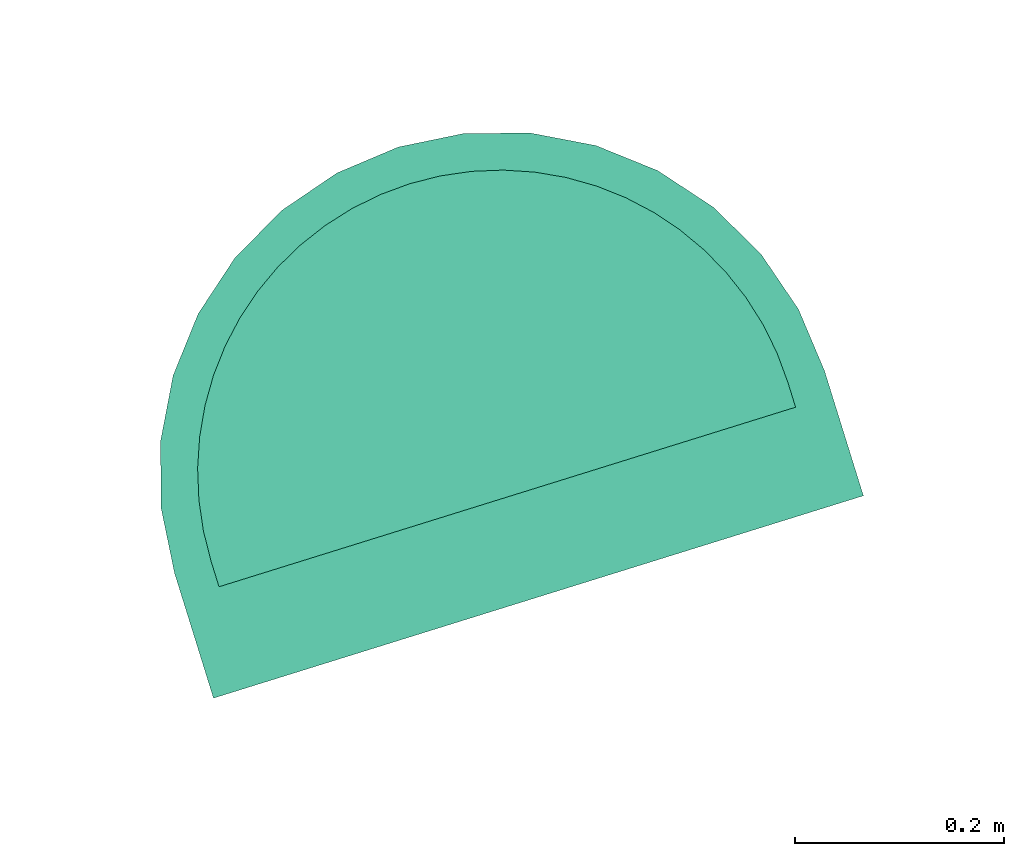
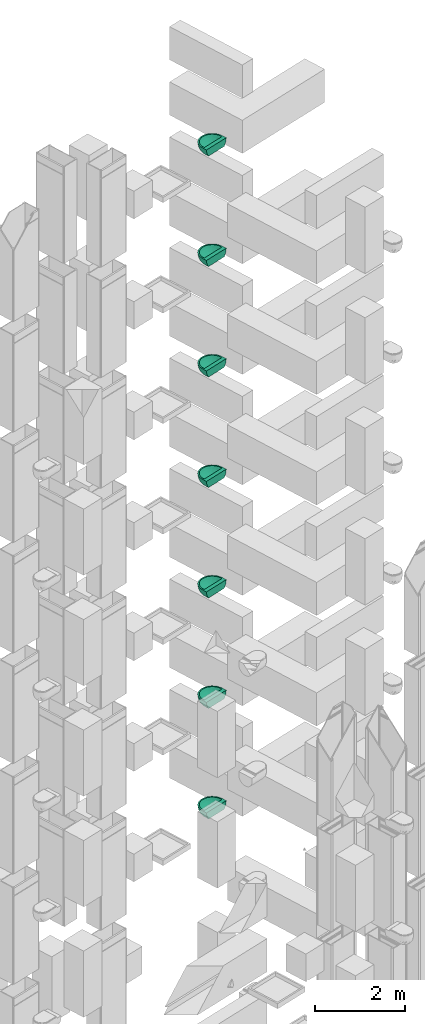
# Not in any storey, part 18 of 20: 7 sanitary terminals.
"""IFC4 model written with IfcOpenShell, lengths in metres."""

import ifcopenshell
import ifcopenshell.guid

model = None  # the IFC model being written
_history = None  # IfcOwnerHistory: only IFC2X3 demands one
_inside = {}  # id of a spatial element -> (the spatial element, [elements in it])
_under = {}  # id of a project, library or spatial element -> (it, [spatial elements below it])
_declared = {}  # id of a project -> (the project, [libraries it declares])
_typed = {}  # id of a type object -> (the type object, [elements of that type])
_made_of = {}  # id of a material, layer set ... -> (it, [elements and type objects made of it])


def new_model(schema):
    """Start an empty IFC model of exactly this schema.

    Asked for "IFC4X3", IfcOpenShell would pick the latest addendum, in which some entities
    have other attributes; the version numbers below select the first issue.
    IFC2X3 requires an IfcOwnerHistory on every rooted entity: one is made here for all.
    """
    global model, _history
    if schema == "IFC4X3":
        model = ifcopenshell.file(schema_version=(4, 3, 0, 0))
    else:
        model = ifcopenshell.file(schema=schema)
    _inside.clear()
    _under.clear()
    _declared.clear()
    _typed.clear()
    _made_of.clear()
    _history = None
    if model.schema == "IFC2X3":
        org = make("IfcOrganization", Name="unknown")
        user = make(
            "IfcPersonAndOrganization",
            ThePerson=make("IfcPerson", FamilyName="unknown"),
            TheOrganization=org,
        )
        app = make(
            "IfcApplication",
            ApplicationDeveloper=org,
            Version="unknown",
            ApplicationFullName="unknown",
            ApplicationIdentifier="unknown",
        )
        _history = make(
            "IfcOwnerHistory",
            OwningUser=user,
            OwningApplication=app,
            ChangeAction="ADDED",
            CreationDate=0,
        )
    return model


def make(cls, **values):
    """One entity of the class cls with the attributes given. An attribute that is None is left unset."""
    return model.create_entity(
        cls, **{name: value for name, value in values.items() if value is not None}
    )


def entity(cls, *values):
    """Any entity or typed value of the class cls, its attributes in the order of the schema. None: left unset."""
    e = model.create_entity(cls)
    for i, value in enumerate(values):
        if value is not None:
            e[i] = value
    return e


def rooted(cls, **values):
    """An entity with a GlobalId (a new one), such as an element, a storey or a relation."""
    return make(cls, GlobalId=ifcopenshell.guid.new(), OwnerHistory=_history, **values)


def si_unit(unit_type, name, prefix=None):
    """IfcSIUnit, for example si_unit("LENGTHUNIT", "METRE", prefix="MILLI")."""
    return make("IfcSIUnit", UnitType=unit_type, Prefix=prefix, Name=name)


def converted_unit(unit_type, name, factor, base, dimensions=None, offset=None):
    """IfcConversionBasedUnit, such as the inch: factor (a typed value) times the base unit."""
    return make(
        "IfcConversionBasedUnit"
        if offset is None
        else "IfcConversionBasedUnitWithOffset",
        ConversionOffset=offset,
        Dimensions=None
        if dimensions is None
        else entity("IfcDimensionalExponents", *dimensions),
        UnitType=unit_type,
        Name=name,
        ConversionFactor=make(
            "IfcMeasureWithUnit", ValueComponent=factor, UnitComponent=base
        ),
    )


def assignment(units):
    """IfcUnitAssignment: the units of a project."""
    return None if units is None else make("IfcUnitAssignment", Units=units)


def point(xyz):
    """IfcCartesianPoint."""
    return None if xyz is None else make("IfcCartesianPoint", Coordinates=xyz)


def direction(xyz):
    """IfcDirection."""
    return None if xyz is None else make("IfcDirection", DirectionRatios=xyz)


def frame(location, z_axis=None, x_axis=None):
    """IfcAxis2Placement3D, a coordinate frame: its origin and axes. An axis left out is left unset."""
    return make(
        "IfcAxis2Placement3D",
        Location=point(location),
        Axis=direction(z_axis),
        RefDirection=direction(x_axis),
    )


def origin():
    """The frame at (0, 0, 0) with its axes left unset."""
    return frame((0.0, 0.0, 0.0))


def place(relative_to, where):
    """IfcLocalPlacement: puts the frame where relative to a parent placement (None: the world)."""
    return make(
        "IfcLocalPlacement", PlacementRelTo=relative_to, RelativePlacement=where
    )


def context(
    kind, dimensions, precision=None, world=None, true_north=None, identifier=None
):
    """IfcGeometricRepresentationContext, for example the 3D "Model" context."""
    return make(
        "IfcGeometricRepresentationContext",
        ContextIdentifier=identifier,
        ContextType=kind,
        CoordinateSpaceDimension=dimensions,
        Precision=precision,
        WorldCoordinateSystem=world,
        TrueNorth=true_north,
    )


def subcontext(parent, identifier, kind, view, scale=None):
    """IfcGeometricRepresentationSubContext, for example "Body" below "Model"."""
    return make(
        "IfcGeometricRepresentationSubContext",
        ContextIdentifier=identifier,
        ContextType=kind,
        ParentContext=parent,
        TargetScale=scale,
        TargetView=view,
    )


def project(units=None, contexts=None):
    """IfcProject with its units and contexts."""
    return rooted(
        "IfcProject",
        Name="project",
        RepresentationContexts=contexts,
        UnitsInContext=assignment(units),
    )


def point_list(points):
    """IfcCartesianPointList2D or 3D."""
    cls = (
        "IfcCartesianPointList2D" if len(points[0]) == 2 else "IfcCartesianPointList3D"
    )
    return make(cls, CoordList=points)


def polygons(points, faces, closed=None, point_numbers=None):
    """IfcPolygonalFaceSet: a face is its outer loop, then its inner loops; points numbered from 1."""
    made = []
    for loops in faces:
        if len(loops) == 1:
            made.append(make("IfcIndexedPolygonalFace", CoordIndex=loops[0]))
        else:
            made.append(
                make(
                    "IfcIndexedPolygonalFaceWithVoids",
                    CoordIndex=loops[0],
                    InnerCoordIndices=loops[1:],
                )
            )
    return make(
        "IfcPolygonalFaceSet",
        Coordinates=point_list(points),
        Closed=closed,
        Faces=made,
        PnIndex=point_numbers,
    )


def shape(context_of_items, identifier, shape_type, items):
    """IfcShapeRepresentation: the items that make up one representation, for example the "Body"."""
    return make(
        "IfcShapeRepresentation",
        ContextOfItems=context_of_items,
        RepresentationIdentifier=identifier,
        RepresentationType=shape_type,
        Items=items,
    )


def source(mapping_origin, context_of_items, identifier, shape_type, items):
    """IfcRepresentationMap: a shape defined once, which mapped items show again and again."""
    return make(
        "IfcRepresentationMap",
        MappingOrigin=mapping_origin,
        MappedRepresentation=shape(context_of_items, identifier, shape_type, items),
    )


def transform(
    local_origin,
    x_axis=None,
    y_axis=None,
    z_axis=None,
    scale=None,
    scale2=None,
    scale3=None,
    uniform=True,
):
    """IfcCartesianTransformationOperator3D, or its non-uniform kind. x_axis, y_axis, z_axis: its Axis1, 2, 3."""
    if uniform:
        return make(
            "IfcCartesianTransformationOperator3D",
            Axis1=direction(x_axis),
            Axis2=direction(y_axis),
            LocalOrigin=point(local_origin),
            Scale=scale,
            Axis3=direction(z_axis),
        )
    return make(
        "IfcCartesianTransformationOperator3DnonUniform",
        Axis1=direction(x_axis),
        Axis2=direction(y_axis),
        LocalOrigin=point(local_origin),
        Scale=scale,
        Axis3=direction(z_axis),
        Scale2=scale2,
        Scale3=scale3,
    )


def mapped(mapping_source, mapping_target):
    """IfcMappedItem: shows the shape of a source again, moved by a transform."""
    return make(
        "IfcMappedItem", MappingSource=mapping_source, MappingTarget=mapping_target
    )


def material(Name=None, Category=None):
    """IfcMaterial."""
    return make("IfcMaterial", Name=Name, Category=Category)


def made_of(thing, what):
    """Note that an element or type object is made of a material, layer set ...; save() writes the relation."""
    if what is not None:
        _made_of.setdefault(what.id(), (what, []))[1].append(thing)
    return thing


def type_object(cls, material=None, **own):
    """A type object (cls), such as IfcWallType, which elements share."""
    return made_of(rooted(cls, **own), material)


def type_shapes(of_type, sources):
    """Give a type object the sources (RepresentationMaps) that its elements show as mapped items."""
    of_type.RepresentationMaps = sources


def element(
    cls,
    number,
    at=None,
    inside=None,
    cuts=None,
    type_object=None,
    material=None,
    context=None,
    identifier="Body",
    shape_type=None,
    held_by="IfcProductDefinitionShape",
    body=None,
    shapes=None,
    **own,
):
    """One element of the class cls, such as IfcWall. Its Tag is "e" and its number.

    at: its placement. inside: the storey or other place that contains it. cuts: it is an
    opening in that element (IfcRelVoidsElement). A single representation is given by context,
    identifier, shape_type and body (its items); several are given by shapes. held_by: the class
    of the entity that holds the representations. save() writes the other relations.
    """
    e = rooted(cls, Tag="e%d" % number, ObjectPlacement=at, **own)
    if body is not None:
        shapes = [shape(context, identifier, shape_type, body)]
    if shapes is not None:
        e.Representation = make(held_by, Representations=shapes)
    if inside is not None:
        _inside.setdefault(inside.id(), (inside, []))[1].append(e)
    if cuts is not None:
        rooted(
            "IfcRelVoidsElement", RelatingBuildingElement=cuts, RelatedOpeningElement=e
        )
    if type_object is not None:
        _typed.setdefault(type_object.id(), (type_object, []))[1].append(e)
    return made_of(e, material)


def aggregate(whole, parts):
    """IfcRelAggregates: a whole, such as a stair, and the parts it consists of."""
    return rooted("IfcRelAggregates", RelatingObject=whole, RelatedObjects=parts)


def save(model, path):
    """Write the relations noted so far, then the file.

    IfcRelAggregates (storeys below a building ...), IfcRelContainedInSpatialStructure (elements
    in a storey), IfcRelDefinesByType, IfcRelAssociatesMaterial and IfcRelDeclares: one each for
    every whole, place, type object, material and project.
    """
    for whole, parts in _under.values():
        aggregate(whole, parts)
    for where, things in _inside.values():
        rooted(
            "IfcRelContainedInSpatialStructure",
            RelatedElements=things,
            RelatingStructure=where,
        )
    for kind, things in _typed.values():
        rooted("IfcRelDefinesByType", RelatedObjects=things, RelatingType=kind)
    for what, things in _made_of.values():
        rooted("IfcRelAssociatesMaterial", RelatedObjects=things, RelatingMaterial=what)
    for by, libraries in _declared.values():
        rooted("IfcRelDeclares", RelatingContext=by, RelatedDefinitions=libraries)
    model.write(path)


model = new_model("IFC4")

# Units and contexts
model_context = context("Model", 3, precision=1e-05, world=origin(), true_north=direction((6.12323399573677e-17, 1.0)))
body_context = subcontext(model_context, "Body", "Model", "MODEL_VIEW")
ifc_project = project(units=[si_unit("LENGTHUNIT", "METRE"), si_unit("AREAUNIT", "SQUARE_METRE"), si_unit("VOLUMEUNIT", "CUBIC_METRE"), converted_unit("PLANEANGLEUNIT", "DEGREE", entity("IfcPlaneAngleMeasure", 0.0174532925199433), si_unit("PLANEANGLEUNIT", "RADIAN"), dimensions=[0, 0, 0, 0, 0, 0, 0])], contexts=[model_context])

# Sanitary terminals
ifc_material = material(Name="<Unnamed>")
sanitary_terminal_type = type_object("IfcSanitaryTerminalType", Name="NLRS_74_PF_WB_wastafel_gen:wastafel", PredefinedType="SINK", material=ifc_material)
shared_shape = source(origin(), body_context, "Body", "Tessellation", [
    polygons([(0.346918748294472, 0.250000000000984, -6.7), (0.346918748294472, 0.124999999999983, -6.7), (0.342460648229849, 0.124999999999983, -6.75364597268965), (0.32922351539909, 0.124999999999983, -6.80577703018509), (0.307569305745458, 0.124999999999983, -6.85501212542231), (0.278092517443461, 0.124999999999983, -6.9), (0.278092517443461, 0.250000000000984, -6.9), (0.307575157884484, 0.250000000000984, -6.85500134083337), (0.329230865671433, 0.250000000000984, -6.8057556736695), (0.34246627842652, 0.250000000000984, -6.75361232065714), (-0.303081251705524, 0.250000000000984, -6.7), (-0.303081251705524, 0.124999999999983, -6.7), (0.021918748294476, 0.124999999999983, -6.7), (0.021918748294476, 0.225000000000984, -6.7), (-0.266395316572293, 0.225000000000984, -6.7), (-0.266395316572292, 0.250000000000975, -6.7), (-0.264816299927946, 0.280133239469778, -6.7), (-0.260095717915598, 0.309940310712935, -6.7), (-0.252285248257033, 0.339090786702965, -6.7), (-0.241470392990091, 0.367265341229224, -6.7), (-0.227769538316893, 0.394155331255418, -6.7), (-0.21133265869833, 0.419466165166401, -6.7), (-0.192339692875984, 0.442920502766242, -6.7), (-0.170998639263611, 0.464261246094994, -6.7), (-0.147543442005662, 0.483254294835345, -6.7), (-0.122231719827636, 0.499691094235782, -6.7), (-0.0953421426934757, 0.513391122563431, -6.7), (-0.0671705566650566, 0.524204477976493, -6.7), (-0.0380241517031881, 0.532013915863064, -6.7), (-0.00821701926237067, 0.536734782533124, -6.7), (0.021918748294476, 0.538314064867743, -6.7), (0.021918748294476, 0.575000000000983, -6.7), (-0.0414856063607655, 0.568755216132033, -6.7), (-0.102453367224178, 0.550260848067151, -6.7), (-0.158641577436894, 0.52022762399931, -6.7), (-0.207890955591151, 0.479809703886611, -6.7), (-0.248308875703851, 0.430560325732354, -6.7), (-0.278342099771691, 0.374372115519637, -6.7), (-0.296836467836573, 0.313404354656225, -6.7), (0.340673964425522, 0.313404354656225, -6.7), (0.32217959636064, 0.374372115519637, -6.7), (0.292146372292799, 0.430560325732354, -6.7), (0.2517284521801, 0.479809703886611, -6.7), (0.202479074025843, 0.52022762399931, -6.7), (0.146290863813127, 0.550260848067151, -6.7), (0.0853231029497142, 0.568755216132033, -6.7), (0.0520545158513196, 0.536734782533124, -6.7), (0.0818616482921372, 0.532013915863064, -6.7), (0.111008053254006, 0.524204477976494, -6.7), (0.139179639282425, 0.513391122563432, -6.7), (0.166069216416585, 0.499691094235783, -6.7), (0.191380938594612, 0.483254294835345, -6.7), (0.214836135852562, 0.464261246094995, -6.7), (0.236177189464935, 0.442920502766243, -6.7), (0.255170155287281, 0.419466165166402, -6.7), (0.271607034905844, 0.394155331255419, -6.7), (0.285307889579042, 0.367265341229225, -6.7), (0.296122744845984, 0.339090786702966, -6.7), (0.303933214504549, 0.309940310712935, -6.7), (0.308653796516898, 0.280133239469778, -6.7), (0.310232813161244, 0.250000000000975, -6.7), (0.310232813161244, 0.225000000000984, -6.7), (-0.298628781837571, 0.250000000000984, -6.75361232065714), (-0.285393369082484, 0.250000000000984, -6.8057556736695), (-0.263737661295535, 0.250000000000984, -6.85500134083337), (-0.234255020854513, 0.250000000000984, -6.9), (-0.234255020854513, 0.124999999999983, -6.9), (-0.26372299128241, 0.124999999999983, -6.85502837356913), (-0.285382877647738, 0.124999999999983, -6.80578615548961), (-0.298623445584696, 0.124999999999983, -6.75364421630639), (0.27659082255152, 0.277697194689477, -6.9), (0.272103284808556, 0.305069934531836, -6.9), (0.264682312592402, 0.331797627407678, -6.9), (0.254414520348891, 0.357567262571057, -6.9), (0.24141970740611, 0.38207698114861, -6.9), (0.225849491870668, 0.405039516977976, -6.9), (0.207885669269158, 0.426185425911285, -6.9), (0.18773840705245, 0.445266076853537, -6.9), (0.165644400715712, 0.46205644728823, -6.9), (0.141864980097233, 0.476357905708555, -6.9), (0.11668363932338, 0.488001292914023, -6.9), (0.0904016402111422, 0.496850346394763, -6.9), (0.0633306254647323, 0.502804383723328, -6.9), (0.0357845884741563, 0.505798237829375, -6.9), (0.00807674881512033, 0.50579952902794, -6.9), (-0.0194777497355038, 0.502806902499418, -6.9), (-0.0465597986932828, 0.496851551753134, -6.9), (-0.0728496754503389, 0.487999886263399, -6.9), (-0.0980340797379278, 0.476354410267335, -6.9), (-0.121813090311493, 0.462052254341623, -6.9), (-0.1439051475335, 0.445262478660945, -6.9), (-0.164050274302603, 0.426183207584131, -6.9), (-0.182012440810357, 0.40503893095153, -6.9), (-0.197581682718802, 0.382077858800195, -6.9), (-0.210576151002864, 0.357569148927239, -6.9), (-0.220844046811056, 0.331799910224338, -6.9), (-0.228265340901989, 0.305071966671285, -6.9), (-0.232753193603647, 0.277698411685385, -6.9), (-0.257045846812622, 0.372316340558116, -6.81332461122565), (0.300884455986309, 0.372313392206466, -6.81332505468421), (-0.0097834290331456, 0.571877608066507, -6.7), (-0.205655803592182, 0.453737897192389, -6.81102113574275), (0.249493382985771, 0.453737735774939, -6.81102126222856), (0.0536209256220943, 0.571877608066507, -6.7), (0.021933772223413, 0.556913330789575, -6.80690747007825), (-0.0719694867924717, 0.559508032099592, -6.7), (0.11580698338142, 0.559508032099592, -6.7), (-0.0425022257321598, 0.546258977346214, -6.81707073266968), (-0.165040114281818, 0.491191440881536, -6.81179477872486), (0.20887408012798, 0.49119811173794, -6.81178629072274), (0.0863501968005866, 0.546256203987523, -6.8170719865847), (-0.23446246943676, 0.3802654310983, -6.85140868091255), (0.278301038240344, 0.380263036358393, -6.85140892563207), (-0.120243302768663, 0.518687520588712, -6.81498681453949), (0.164074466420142, 0.518691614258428, -6.81498507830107), (-0.233336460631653, 0.433005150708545, -6.78353976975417), (0.277175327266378, 0.433003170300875, -6.78353992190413), (-0.290060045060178, 0.315925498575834, -6.76283359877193), (0.333897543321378, 0.315925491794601, -6.76283359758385), (-0.275008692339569, 0.312028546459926, -6.81666856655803), (-0.254394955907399, 0.314447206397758, -6.85850014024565), (-0.272362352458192, 0.371908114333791, -6.76451391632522), (0.31884634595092, 0.312026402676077, -6.81666930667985), (0.298232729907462, 0.314444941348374, -6.85850057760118), (0.316201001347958, 0.371905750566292, -6.76451312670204), (-0.0755829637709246, 0.549402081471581, -6.78047862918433), (-0.0690330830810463, 0.524635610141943, -6.84808121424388), (0.119420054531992, 0.549406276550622, -6.7804635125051), (0.112885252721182, 0.524636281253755, -6.84807095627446), (-0.228099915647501, 0.455185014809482, -6.7), (0.27193741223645, 0.455185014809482, -6.7), (-0.183266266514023, 0.50001866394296, -6.7), (0.227103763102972, 0.50001866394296, -6.7), (-0.130547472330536, 0.53524423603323, -6.7), (0.174384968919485, 0.53524423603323, -6.7), (-0.234514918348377, 0.250000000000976, -6.74966665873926), (-0.194178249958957, 0.250000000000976, -6.79274902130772), (-0.146715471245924, 0.250000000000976, -6.82782638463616), (-0.0936917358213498, 0.250000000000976, -6.85374202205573), (-0.0368555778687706, 0.250000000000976, -6.86964132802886), (0.0219187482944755, 0.250000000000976, -6.875), (0.0806930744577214, 0.250000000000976, -6.86964132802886), (0.137529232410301, 0.250000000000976, -6.85374202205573), (0.190552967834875, 0.250000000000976, -6.82782638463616), (0.238015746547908, 0.250000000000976, -6.79274902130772), (0.278352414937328, 0.250000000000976, -6.74966665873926), (-0.119627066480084, 0.397173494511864, -6.80284332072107), (0.16346455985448, 0.397173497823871, -6.8028433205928), (-0.200517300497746, 0.337511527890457, -6.77020203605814), (0.244354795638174, 0.337511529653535, -6.77020203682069), (-0.162633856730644, 0.422041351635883, -6.75485875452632), (0.206471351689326, 0.422041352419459, -6.75485875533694), (0.00220012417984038, 0.442185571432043, -6.81134437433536), (-0.0912046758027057, 0.468814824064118, -6.76200981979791), (0.135042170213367, 0.468814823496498, -6.76200982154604), (0.0498196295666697, 0.355825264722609, -6.85601887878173), (-0.0620730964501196, 0.341760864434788, -6.85025041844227), (0.160889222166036, 0.323929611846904, -6.83433540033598), (0.0405814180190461, 0.492340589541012, -6.76574926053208), (0.0863370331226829, 0.429389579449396, -6.81323879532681), (-0.00909478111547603, 0.495066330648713, -6.76120050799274), (-0.0478694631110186, 0.456606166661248, -6.79097405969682), (-0.0422183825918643, 0.402597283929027, -6.82968821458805), (-0.00740806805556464, 0.361981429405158, -6.8536858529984), (-0.00719351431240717, 0.303117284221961, -6.869305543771), (-0.0504034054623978, 0.497275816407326, -6.7481140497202), (0.115439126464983, 0.373042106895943, -6.83590134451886), (0.101584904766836, 0.312319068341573, -6.85886022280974), (-0.144773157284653, 0.326326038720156, -6.81835264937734), (0.086060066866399, 0.493745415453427, -6.75518056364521), (-0.234512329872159, 0.225000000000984, -6.74966998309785), (-0.19417475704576, 0.225000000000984, -6.79275213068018), (-0.146711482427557, 0.225000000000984, -6.8278288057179), (-0.0936885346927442, 0.225000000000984, -6.85374324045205), (-0.0368543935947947, 0.225000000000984, -6.869641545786), (0.021917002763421, 0.225000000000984, -6.87499999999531), (0.080687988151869, 0.225000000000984, -6.86964226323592), (0.137520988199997, 0.225000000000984, -6.85374515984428), (0.19054233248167, 0.225000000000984, -6.82783283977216), (0.238003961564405, 0.225000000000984, -6.79275951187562), (0.278341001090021, 0.225000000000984, -6.74968131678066)], [[[7, 8, 5]], [[5, 6, 7]], [[4, 5, 8]], [[8, 9, 4]], [[10, 1, 2]], [[10, 3, 9]], [[3, 10, 2]], [[9, 3, 4]], [[32, 101, 33, 106, 34, 134, 35, 132, 36, 130, 37, 38, 39, 11, 12, 13, 2, 1, 40, 41, 42, 131, 43, 133, 44, 135, 45, 107, 46, 104], [31, 47, 48, 49, 50, 51, 52, 53, 54, 55, 56, 57, 58, 59, 60, 61, 62, 14, 15, 16, 17, 18, 19, 20, 21, 22, 23, 24, 25, 26, 27, 28, 29, 30]], [[11, 63, 12]], [[63, 70, 12]], [[70, 63, 64]], [[70, 64, 69]], [[65, 66, 68]], [[65, 68, 69]], [[68, 66, 67]], [[65, 69, 64]], [[13, 12, 70, 69, 68, 67, 6, 5, 4, 3, 2]], [[109, 102, 35]], [[41, 125, 42]], [[100, 123, 124]], [[109, 91, 92]], [[112, 116, 102]], [[92, 93, 109]], [[75, 113, 74]], [[102, 109, 93]], [[91, 109, 114]], [[119, 123, 125]], [[87, 88, 127]], [[108, 101, 105]], [[119, 125, 41]], [[85, 86, 108]], [[34, 114, 109]], [[108, 126, 33]], [[113, 117, 100]], [[126, 127, 114]], [[90, 114, 89]], [[106, 114, 34]], [[126, 106, 33]], [[124, 72, 73]], [[94, 112, 102]], [[39, 38, 118]], [[114, 106, 126]], [[63, 118, 64]], [[122, 99, 120]], [[39, 63, 11]], [[118, 63, 39]], [[117, 43, 131]], [[103, 117, 113]], [[122, 38, 37]], [[87, 127, 108]], [[85, 108, 105]], [[97, 121, 96]], [[95, 96, 112]], [[115, 78, 79]], [[116, 36, 132]], [[66, 65, 121]], [[105, 84, 85]], [[64, 120, 65]], [[121, 65, 120]], [[127, 89, 114]], [[104, 111, 105]], [[121, 112, 96]], [[93, 94, 102]], [[99, 130, 116]], [[121, 98, 66]], [[127, 126, 108]], [[111, 104, 46]], [[8, 7, 124]], [[94, 95, 112]], [[105, 101, 32]], [[104, 105, 32]], [[105, 111, 84]], [[101, 108, 33]], [[111, 82, 83]], [[80, 115, 79]], [[115, 107, 45]], [[110, 44, 103]], [[120, 118, 122]], [[112, 121, 99]], [[76, 110, 103]], [[114, 90, 91]], [[129, 111, 128]], [[117, 131, 100]], [[110, 78, 115]], [[103, 75, 76]], [[84, 111, 83]], [[120, 99, 121]], [[128, 111, 46]], [[38, 122, 118]], [[116, 112, 99]], [[34, 109, 35, 134]], [[77, 78, 110]], [[76, 77, 110]], [[82, 111, 129]], [[103, 133, 117]], [[75, 103, 113]], [[86, 87, 108]], [[8, 124, 123]], [[73, 113, 124]], [[128, 46, 107]], [[113, 100, 124]], [[73, 74, 113]], [[123, 9, 8]], [[7, 71, 124]], [[118, 120, 64]], [[119, 40, 10]], [[80, 81, 129]], [[103, 44, 133]], [[122, 130, 99]], [[1, 10, 40]], [[119, 10, 9]], [[116, 132, 102]], [[123, 100, 125]], [[71, 72, 124]], [[40, 119, 41]], [[110, 45, 135, 44]], [[121, 97, 98]], [[130, 36, 116]], [[125, 100, 131]], [[123, 119, 9]], [[127, 88, 89]], [[107, 115, 128]], [[115, 80, 129]], [[115, 129, 128]], [[82, 129, 81]], [[130, 122, 37]], [[131, 42, 125]], [[35, 102, 132]], [[43, 117, 133]], [[45, 110, 115]], [[26, 25, 151]], [[156, 153, 164]], [[24, 23, 151]], [[165, 168, 156]], [[163, 164, 153]], [[149, 151, 21]], [[154, 27, 26]], [[157, 163, 147]], [[31, 161, 159]], [[159, 160, 170]], [[157, 169, 139]], [[163, 153, 162]], [[161, 166, 162]], [[30, 161, 31]], [[154, 26, 151]], [[161, 162, 153]], [[154, 162, 166]], [[164, 163, 157]], [[18, 149, 19]], [[154, 166, 28]], [[18, 17, 136]], [[167, 160, 156]], [[158, 167, 168]], [[136, 17, 16]], [[20, 19, 149]], [[30, 29, 166]], [[169, 149, 137]], [[139, 169, 138]], [[156, 168, 167]], [[137, 149, 136]], [[136, 149, 18]], [[151, 23, 22]], [[20, 149, 21]], [[145, 150, 144]], [[27, 154, 28]], [[22, 21, 151]], [[164, 165, 156]], [[24, 151, 25]], [[162, 154, 147]], [[140, 165, 157]], [[161, 153, 159]], [[148, 155, 160]], [[152, 51, 155]], [[148, 158, 150]], [[168, 142, 143]], [[155, 50, 49]], [[48, 47, 170]], [[52, 51, 152]], [[54, 53, 152]], [[163, 162, 147]], [[152, 150, 56]], [[160, 159, 153]], [[170, 155, 49]], [[152, 56, 55]], [[160, 167, 148]], [[53, 52, 152]], [[140, 141, 165]], [[57, 56, 150]], [[51, 50, 155]], [[140, 157, 139]], [[144, 150, 158]], [[158, 143, 144]], [[148, 150, 152]], [[147, 149, 169]], [[165, 164, 157]], [[147, 154, 151]], [[145, 146, 150]], [[166, 161, 30]], [[28, 166, 29]], [[146, 59, 150]], [[61, 60, 146]], [[59, 146, 60]], [[47, 31, 159]], [[55, 54, 152]], [[168, 165, 141]], [[150, 59, 58]], [[57, 150, 58]], [[147, 151, 149]], [[158, 148, 167]], [[49, 48, 170]], [[156, 160, 153]], [[148, 152, 155]], [[158, 168, 143]], [[141, 142, 168]], [[147, 169, 157]], [[138, 169, 137]], [[155, 170, 160]], [[159, 170, 47]], [[16, 15, 136]], [[136, 171, 137]], [[139, 138, 173]], [[172, 138, 137]], [[140, 139, 174]], [[136, 15, 171]], [[137, 171, 172]], [[140, 175, 176]], [[139, 173, 174]], [[140, 174, 175]], [[173, 138, 172]], [[176, 141, 140]], [[142, 141, 177]], [[142, 178, 143]], [[145, 144, 180]], [[179, 144, 143]], [[146, 145, 181]], [[178, 142, 177]], [[179, 143, 178]], [[180, 181, 145]], [[144, 179, 180]], [[62, 146, 181]], [[146, 62, 61]], [[176, 177, 141]], [[181, 180, 179, 178, 177, 176, 175, 174, 173, 172, 171, 15, 14, 62]], [[6, 67, 66, 98, 97, 96, 95, 94, 93, 92, 91, 90, 89, 88, 87, 86, 85, 84, 83, 82, 81, 80, 79, 78, 77, 76, 75, 74, 73, 72, 71, 7]]], closed=True),
])
type_shapes(sanitary_terminal_type, [shared_shape])
placement_1 = place(None, frame((13.1347999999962, 11.9886000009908, 0.0), z_axis=(0.0, 0.0, 1.0), x_axis=(0.954770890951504, 0.297342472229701, 0.0)))
placement_2 = place(placement_1, origin())
placement_3 = place(placement_2, frame((0.0, 0.0, 6.9)))
placement_4 = place(placement_3, origin())
sanitary_terminal_1_placement = place(placement_4, frame((21.8530812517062, 22.2, 7.4)))
element("IfcSanitaryTerminal", 1, at=sanitary_terminal_1_placement, type_object=sanitary_terminal_type, material=ifc_material, Name="NLRS_74_PF_WB_wastafel_gen:wastafel", ObjectType="NLRS_74_PF_WB_wastafel_gen:wastafel", PredefinedType="SINK", context=body_context, shape_type="MappedRepresentation", body=[
    mapped(shared_shape, transform((0.0, 0.0, 0.0), scale=1.0)),
])
placement_5 = place(placement_2, frame((0.0, 0.0, 9.9)))
placement_6 = place(placement_5, origin())
sanitary_terminal_2_placement = place(placement_6, frame((21.8530812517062, 22.1999999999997, 7.4)))
element("IfcSanitaryTerminal", 2, at=sanitary_terminal_2_placement, type_object=sanitary_terminal_type, material=ifc_material, Name="NLRS_74_PF_WB_wastafel_gen:wastafel", ObjectType="NLRS_74_PF_WB_wastafel_gen:wastafel", PredefinedType="SINK", context=body_context, shape_type="MappedRepresentation", body=[
    mapped(shared_shape, transform((0.0, 0.0, 0.0), scale=1.0)),
])
placement_7 = place(placement_2, frame((0.0, 0.0, 12.9)))
placement_8 = place(placement_7, origin())
sanitary_terminal_3_placement = place(placement_8, frame((21.8530812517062, 22.1999999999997, 7.4)))
element("IfcSanitaryTerminal", 3, at=sanitary_terminal_3_placement, type_object=sanitary_terminal_type, material=ifc_material, Name="NLRS_74_PF_WB_wastafel_gen:wastafel", ObjectType="NLRS_74_PF_WB_wastafel_gen:wastafel", PredefinedType="SINK", context=body_context, shape_type="MappedRepresentation", body=[
    mapped(shared_shape, transform((0.0, 0.0, 0.0), scale=1.0)),
])
placement_9 = place(placement_2, frame((0.0, 0.0, 15.9)))
placement_10 = place(placement_9, origin())
sanitary_terminal_4_placement = place(placement_10, frame((21.8530812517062, 22.1999999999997, 7.4)))
element("IfcSanitaryTerminal", 4, at=sanitary_terminal_4_placement, type_object=sanitary_terminal_type, material=ifc_material, Name="NLRS_74_PF_WB_wastafel_gen:wastafel", ObjectType="NLRS_74_PF_WB_wastafel_gen:wastafel", PredefinedType="SINK", context=body_context, shape_type="MappedRepresentation", body=[
    mapped(shared_shape, transform((0.0, 0.0, 0.0), scale=1.0)),
])
placement_11 = place(placement_2, frame((0.0, 0.0, 18.9)))
placement_12 = place(placement_11, origin())
sanitary_terminal_5_placement = place(placement_12, frame((21.8530812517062, 22.1999999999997, 7.4)))
element("IfcSanitaryTerminal", 5, at=sanitary_terminal_5_placement, type_object=sanitary_terminal_type, material=ifc_material, Name="NLRS_74_PF_WB_wastafel_gen:wastafel", ObjectType="NLRS_74_PF_WB_wastafel_gen:wastafel", PredefinedType="SINK", context=body_context, shape_type="MappedRepresentation", body=[
    mapped(shared_shape, transform((0.0, 0.0, 0.0), scale=1.0)),
])
placement_13 = place(placement_2, frame((0.0, 0.0, 21.9)))
placement_14 = place(placement_13, origin())
sanitary_terminal_6_placement = place(placement_14, frame((21.8530812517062, 22.1999999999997, 7.4)))
element("IfcSanitaryTerminal", 6, at=sanitary_terminal_6_placement, type_object=sanitary_terminal_type, material=ifc_material, Name="NLRS_74_PF_WB_wastafel_gen:wastafel", ObjectType="NLRS_74_PF_WB_wastafel_gen:wastafel", PredefinedType="SINK", context=body_context, shape_type="MappedRepresentation", body=[
    mapped(shared_shape, transform((0.0, 0.0, 0.0), scale=1.0)),
])
placement_15 = place(placement_2, frame((0.0, 0.0, 24.9)))
placement_16 = place(placement_15, origin())
sanitary_terminal_7_placement = place(placement_16, frame((21.8530812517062, 22.1999999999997, 7.4)))
element("IfcSanitaryTerminal", 7, at=sanitary_terminal_7_placement, type_object=sanitary_terminal_type, material=ifc_material, Name="NLRS_74_PF_WB_wastafel_gen:wastafel", ObjectType="NLRS_74_PF_WB_wastafel_gen:wastafel", PredefinedType="SINK", context=body_context, shape_type="MappedRepresentation", body=[
    mapped(shared_shape, transform((0.0, 0.0, 0.0), scale=1.0)),
])

save(model, "model.ifc")
